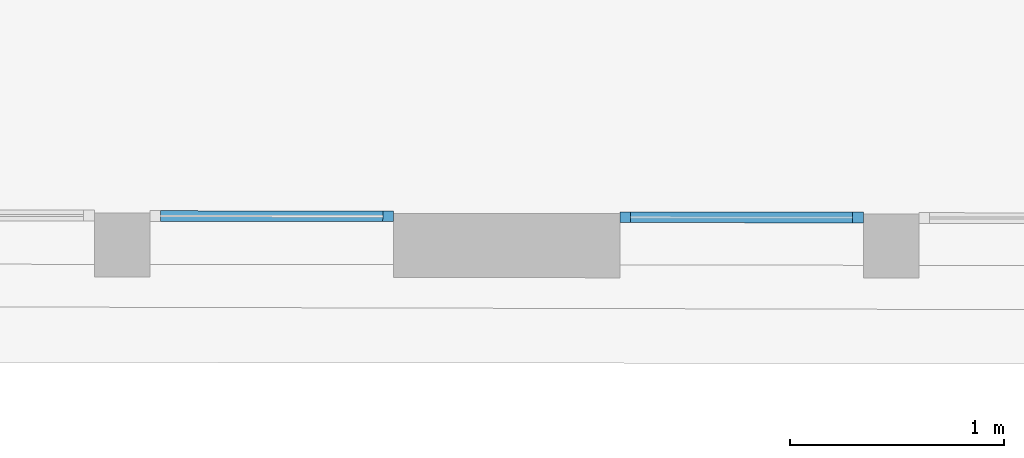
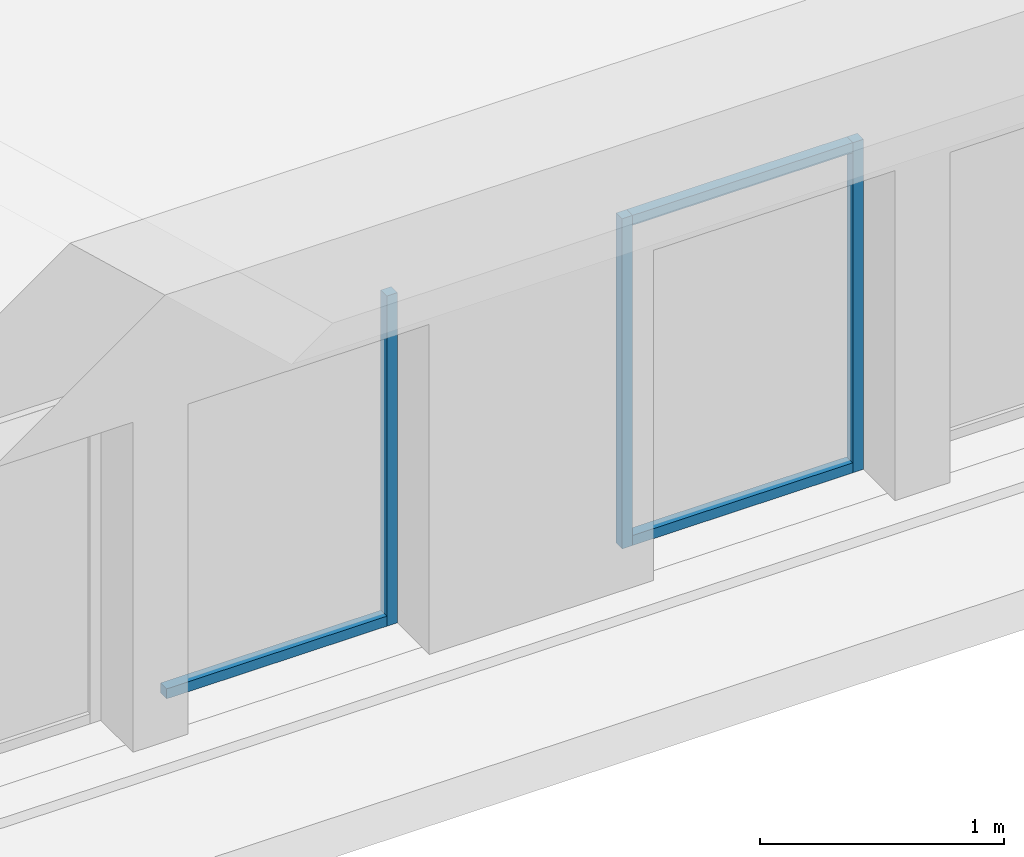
# One storey, part 2 of 26: 6 members, 2 elements without a shape of their own.
"""IFC2X3 building model written with IfcOpenShell, lengths in metres."""

import ifcopenshell
import ifcopenshell.guid

model = None  # the IFC model being written
_history = None  # IfcOwnerHistory: only IFC2X3 demands one
_inside = {}  # id of a spatial element -> (the spatial element, [elements in it])
_under = {}  # id of a project, library or spatial element -> (it, [spatial elements below it])
_declared = {}  # id of a project -> (the project, [libraries it declares])
_typed = {}  # id of a type object -> (the type object, [elements of that type])
_made_of = {}  # id of a material, layer set ... -> (it, [elements and type objects made of it])


def new_model(schema):
    """Start an empty IFC model of exactly this schema.

    Asked for "IFC4X3", IfcOpenShell would pick the latest addendum, in which some entities
    have other attributes; the version numbers below select the first issue.
    IFC2X3 requires an IfcOwnerHistory on every rooted entity: one is made here for all.
    """
    global model, _history
    if schema == "IFC4X3":
        model = ifcopenshell.file(schema_version=(4, 3, 0, 0))
    else:
        model = ifcopenshell.file(schema=schema)
    _inside.clear()
    _under.clear()
    _declared.clear()
    _typed.clear()
    _made_of.clear()
    _history = None
    if model.schema == "IFC2X3":
        org = make("IfcOrganization", Name="unknown")
        user = make(
            "IfcPersonAndOrganization",
            ThePerson=make("IfcPerson", FamilyName="unknown"),
            TheOrganization=org,
        )
        app = make(
            "IfcApplication",
            ApplicationDeveloper=org,
            Version="unknown",
            ApplicationFullName="unknown",
            ApplicationIdentifier="unknown",
        )
        _history = make(
            "IfcOwnerHistory",
            OwningUser=user,
            OwningApplication=app,
            ChangeAction="ADDED",
            CreationDate=0,
        )
    return model


def make(cls, **values):
    """One entity of the class cls with the attributes given. An attribute that is None is left unset."""
    return model.create_entity(
        cls, **{name: value for name, value in values.items() if value is not None}
    )


def entity(cls, *values):
    """Any entity or typed value of the class cls, its attributes in the order of the schema. None: left unset."""
    e = model.create_entity(cls)
    for i, value in enumerate(values):
        if value is not None:
            e[i] = value
    return e


def rooted(cls, **values):
    """An entity with a GlobalId (a new one), such as an element, a storey or a relation."""
    return make(cls, GlobalId=ifcopenshell.guid.new(), OwnerHistory=_history, **values)


def si_unit(unit_type, name, prefix=None):
    """IfcSIUnit, for example si_unit("LENGTHUNIT", "METRE", prefix="MILLI")."""
    return make("IfcSIUnit", UnitType=unit_type, Prefix=prefix, Name=name)


def converted_unit(unit_type, name, factor, base, dimensions=None, offset=None):
    """IfcConversionBasedUnit, such as the inch: factor (a typed value) times the base unit."""
    return make(
        "IfcConversionBasedUnit"
        if offset is None
        else "IfcConversionBasedUnitWithOffset",
        ConversionOffset=offset,
        Dimensions=None
        if dimensions is None
        else entity("IfcDimensionalExponents", *dimensions),
        UnitType=unit_type,
        Name=name,
        ConversionFactor=make(
            "IfcMeasureWithUnit", ValueComponent=factor, UnitComponent=base
        ),
    )


def derived_unit(unit_type, elements):
    """IfcDerivedUnit: a product of units, each with its exponent."""
    return make(
        "IfcDerivedUnit",
        Elements=[
            make("IfcDerivedUnitElement", Unit=unit, Exponent=power)
            for unit, power in elements
        ],
        UnitType=unit_type,
    )


def assignment(units):
    """IfcUnitAssignment: the units of a project."""
    return None if units is None else make("IfcUnitAssignment", Units=units)


def point(xyz):
    """IfcCartesianPoint."""
    return None if xyz is None else make("IfcCartesianPoint", Coordinates=xyz)


def direction(xyz):
    """IfcDirection."""
    return None if xyz is None else make("IfcDirection", DirectionRatios=xyz)


def frame(location, z_axis=None, x_axis=None):
    """IfcAxis2Placement3D, a coordinate frame: its origin and axes. An axis left out is left unset."""
    return make(
        "IfcAxis2Placement3D",
        Location=point(location),
        Axis=direction(z_axis),
        RefDirection=direction(x_axis),
    )


def frame_2d(location, x_axis=None):
    """IfcAxis2Placement2D, a coordinate frame in the plane: its origin and x axis."""
    return make(
        "IfcAxis2Placement2D", Location=point(location), RefDirection=direction(x_axis)
    )


def origin():
    """The frame at (0, 0, 0) with its axes left unset."""
    return frame((0.0, 0.0, 0.0))


def origin_2d_with_axis():
    """The frame at (0, 0) in the plane with the x axis (1, 0) written out."""
    return frame_2d((0.0, 0.0), x_axis=(1.0, 0.0))


def place(relative_to, where):
    """IfcLocalPlacement: puts the frame where relative to a parent placement (None: the world)."""
    return make(
        "IfcLocalPlacement", PlacementRelTo=relative_to, RelativePlacement=where
    )


def context(
    kind, dimensions, precision=None, world=None, true_north=None, identifier=None
):
    """IfcGeometricRepresentationContext, for example the 3D "Model" context."""
    return make(
        "IfcGeometricRepresentationContext",
        ContextIdentifier=identifier,
        ContextType=kind,
        CoordinateSpaceDimension=dimensions,
        Precision=precision,
        WorldCoordinateSystem=world,
        TrueNorth=true_north,
    )


def subcontext(parent, identifier, kind, view, scale=None):
    """IfcGeometricRepresentationSubContext, for example "Body" below "Model"."""
    return make(
        "IfcGeometricRepresentationSubContext",
        ContextIdentifier=identifier,
        ContextType=kind,
        ParentContext=parent,
        TargetScale=scale,
        TargetView=view,
    )


def project(units=None, contexts=None):
    """IfcProject with its units and contexts."""
    return rooted(
        "IfcProject",
        Name="project",
        RepresentationContexts=contexts,
        UnitsInContext=assignment(units),
    )


def spatial(cls, under=None, at=None, **own):
    """A site, building, storey or space (cls), placed at a placement, below another one or the project."""
    s = rooted(cls, ObjectPlacement=at, **own)
    if under is not None:
        _under.setdefault(under.id(), (under, []))[1].append(s)
    return s


def profile(cls, at=None, kind="AREA", **sizes):
    """A parametric profile (cls). Its sizes go by their IFC names, for example OverallWidth=200.0."""
    return make(cls, ProfileType=kind, Position=at, **sizes)


def rectangle(**sizes):
    """IfcRectangleProfileDef."""
    return profile("IfcRectangleProfileDef", **sizes)


def extrude(swept, where, along, depth):
    """IfcExtrudedAreaSolid: the profile swept, set in the frame where, extruded along a direction by depth."""
    return make(
        "IfcExtrudedAreaSolid",
        SweptArea=swept,
        Position=where,
        ExtrudedDirection=direction(along),
        Depth=depth,
    )


def shape(context_of_items, identifier, shape_type, items):
    """IfcShapeRepresentation: the items that make up one representation, for example the "Body"."""
    return make(
        "IfcShapeRepresentation",
        ContextOfItems=context_of_items,
        RepresentationIdentifier=identifier,
        RepresentationType=shape_type,
        Items=items,
    )


def source(mapping_origin, context_of_items, identifier, shape_type, items):
    """IfcRepresentationMap: a shape defined once, which mapped items show again and again."""
    return make(
        "IfcRepresentationMap",
        MappingOrigin=mapping_origin,
        MappedRepresentation=shape(context_of_items, identifier, shape_type, items),
    )


def transform(
    local_origin,
    x_axis=None,
    y_axis=None,
    z_axis=None,
    scale=None,
    scale2=None,
    scale3=None,
    uniform=True,
):
    """IfcCartesianTransformationOperator3D, or its non-uniform kind. x_axis, y_axis, z_axis: its Axis1, 2, 3."""
    if uniform:
        return make(
            "IfcCartesianTransformationOperator3D",
            Axis1=direction(x_axis),
            Axis2=direction(y_axis),
            LocalOrigin=point(local_origin),
            Scale=scale,
            Axis3=direction(z_axis),
        )
    return make(
        "IfcCartesianTransformationOperator3DnonUniform",
        Axis1=direction(x_axis),
        Axis2=direction(y_axis),
        LocalOrigin=point(local_origin),
        Scale=scale,
        Axis3=direction(z_axis),
        Scale2=scale2,
        Scale3=scale3,
    )


def mapped(mapping_source, mapping_target):
    """IfcMappedItem: shows the shape of a source again, moved by a transform."""
    return make(
        "IfcMappedItem", MappingSource=mapping_source, MappingTarget=mapping_target
    )


def material(Name=None, Category=None):
    """IfcMaterial."""
    return make("IfcMaterial", Name=Name, Category=Category)


def made_of(thing, what):
    """Note that an element or type object is made of a material, layer set ...; save() writes the relation."""
    if what is not None:
        _made_of.setdefault(what.id(), (what, []))[1].append(thing)
    return thing


def type_object(cls, material=None, **own):
    """A type object (cls), such as IfcWallType, which elements share."""
    return made_of(rooted(cls, **own), material)


def type_shapes(of_type, sources):
    """Give a type object the sources (RepresentationMaps) that its elements show as mapped items."""
    of_type.RepresentationMaps = sources


def element(
    cls,
    number,
    at=None,
    inside=None,
    cuts=None,
    type_object=None,
    material=None,
    context=None,
    identifier="Body",
    shape_type=None,
    held_by="IfcProductDefinitionShape",
    body=None,
    shapes=None,
    **own,
):
    """One element of the class cls, such as IfcWall. Its Tag is "e" and its number.

    at: its placement. inside: the storey or other place that contains it. cuts: it is an
    opening in that element (IfcRelVoidsElement). A single representation is given by context,
    identifier, shape_type and body (its items); several are given by shapes. held_by: the class
    of the entity that holds the representations. save() writes the other relations.
    """
    e = rooted(cls, Tag="e%d" % number, ObjectPlacement=at, **own)
    if body is not None:
        shapes = [shape(context, identifier, shape_type, body)]
    if shapes is not None:
        e.Representation = make(held_by, Representations=shapes)
    if inside is not None:
        _inside.setdefault(inside.id(), (inside, []))[1].append(e)
    if cuts is not None:
        rooted(
            "IfcRelVoidsElement", RelatingBuildingElement=cuts, RelatedOpeningElement=e
        )
    if type_object is not None:
        _typed.setdefault(type_object.id(), (type_object, []))[1].append(e)
    return made_of(e, material)


def aggregate(whole, parts):
    """IfcRelAggregates: a whole, such as a stair, and the parts it consists of."""
    return rooted("IfcRelAggregates", RelatingObject=whole, RelatedObjects=parts)


def save(model, path):
    """Write the relations noted so far, then the file.

    IfcRelAggregates (storeys below a building ...), IfcRelContainedInSpatialStructure (elements
    in a storey), IfcRelDefinesByType, IfcRelAssociatesMaterial and IfcRelDeclares: one each for
    every whole, place, type object, material and project.
    """
    for whole, parts in _under.values():
        aggregate(whole, parts)
    for where, things in _inside.values():
        rooted(
            "IfcRelContainedInSpatialStructure",
            RelatedElements=things,
            RelatingStructure=where,
        )
    for kind, things in _typed.values():
        rooted("IfcRelDefinesByType", RelatedObjects=things, RelatingType=kind)
    for what, things in _made_of.values():
        rooted("IfcRelAssociatesMaterial", RelatedObjects=things, RelatingMaterial=what)
    for by, libraries in _declared.values():
        rooted("IfcRelDeclares", RelatingContext=by, RelatedDefinitions=libraries)
    model.write(path)


model = new_model("IFC2X3")

# Units and contexts
model_context = context("Model", 3, precision=1e-05, world=origin(), true_north=direction((6.123233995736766e-17, 1.0)))
body_context = subcontext(model_context, "Body", "Model", "MODEL_VIEW")
ifc_project = project(units=[si_unit("LENGTHUNIT", "METRE"), si_unit("AREAUNIT", "SQUARE_METRE"), converted_unit("PLANEANGLEUNIT", "DEGREE", entity("IfcPlaneAngleMeasure", 0.017453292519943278), si_unit("PLANEANGLEUNIT", "RADIAN"), dimensions=[0, 0, 0, 0, 0, 0, 0]), derived_unit("THERMALTRANSMITTANCEUNIT", [(si_unit("MASSUNIT", "GRAM", prefix="KILO"), 1), (si_unit("THERMODYNAMICTEMPERATUREUNIT", "KELVIN"), -1), (si_unit("TIMEUNIT", "SECOND"), -3)])], contexts=[model_context])

# Site, building, storey
site_placement = place(None, frame((1253.6752467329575, 2072.143113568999, 91.49999999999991), z_axis=(0.0, 0.0, 1.0), x_axis=(0.7237211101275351, 0.6900925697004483, 0.0)))
site = spatial("IfcSite", under=ifc_project, at=site_placement, Name="Surface", CompositionType="ELEMENT")
building_placement = place(site_placement, origin())
building = spatial("IfcBuilding", under=site, at=building_placement, CompositionType="ELEMENT")
storey_placement = place(building_placement, frame((0.0, 0.0, 7.0)))
storey = spatial("IfcBuildingStorey", under=building, at=storey_placement, Name="2-R+2", CompositionType="ELEMENT", Elevation=6.999999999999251)

# Curtain wall, members
curtain_wall_type = type_object("IfcCurtainWallType", Name="Mur-rideau:Menuiserie Ext 1F+1OB VERTIC", PredefinedType="NOTDEFINED")
curtain_wall_1_placement = place(storey_placement, frame((0.0, 0.0, -7.0)))
curtain_wall_1 = element("IfcCurtainWall", 1, at=curtain_wall_1_placement, inside=storey, type_object=curtain_wall_type, Name="Mur-rideau:Menuiserie Ext 1F+1OB VERTIC", ObjectType="Mur-rideau:Menuiserie Ext 1F+1OB VERTIC")
ifc_material = material(Name="OMD_Aluminium Men Ext")
member_type_1 = type_object("IfcMemberType", Name="Meneau rectangulaire:50x50", PredefinedType="MULLION", material=ifc_material)
shared_shape_1 = source(origin(), body_context, "Body", "SweptSolid", [
    extrude(rectangle(XDim=0.05, YDim=0.049999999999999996, at=origin_2d_with_axis()), frame((-0.025, 0.0, -1.039999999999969), z_axis=(0.0, 0.0, 1.0), x_axis=(-1.0, 0.0, 0.0)), (0.0, 0.0, 1.0), 1.0399999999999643),
])
type_shapes(member_type_1, [shared_shape_1])
member_1_placement = place(curtain_wall_1_placement, frame((154.77449531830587, -5.822534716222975, 9.55), z_axis=(-0.7228702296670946, 0.6909838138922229, 0.0), x_axis=(0.0, 0.0, 1.0)))
member_1 = element("IfcMember", 2, at=member_1_placement, type_object=member_type_1, material=ifc_material, Name="Meneau rectangulaire:50x50", ObjectType="Meneau rectangulaire:50x50", context=body_context, shape_type="MappedRepresentation", body=[
    mapped(shared_shape_1, transform((0.0, 0.0, 0.0), scale=1.0)),
])
member_type_2 = type_object("IfcMemberType", Name="Meneau rectangulaire:50x50", PredefinedType="MULLION", material=ifc_material)
shared_shape_2 = source(origin(), body_context, "Body", "SweptSolid", [
    extrude(rectangle(XDim=0.05, YDim=0.05, at=origin_2d_with_axis()), frame((-0.025, 0.0, -1.0399999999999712), z_axis=(0.0, 0.0, 1.0), x_axis=(-1.0, 0.0, 0.0)), (0.0, 0.0, 1.0), 1.0399999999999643),
])
type_shapes(member_type_2, [shared_shape_2])
member_2_placement = place(curtain_wall_1_placement, frame((155.52628035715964, -6.541157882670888, 7.900000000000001), z_axis=(0.7228702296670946, -0.6909838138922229, 0.0), x_axis=(0.0, 0.0, -1.0)))
member_2 = element("IfcMember", 3, at=member_2_placement, type_object=member_type_2, material=ifc_material, Name="Meneau rectangulaire:50x50", ObjectType="Meneau rectangulaire:50x50", context=body_context, shape_type="MappedRepresentation", body=[
    mapped(shared_shape_2, transform((0.0, 0.0, 0.0), scale=1.0)),
])

# Curtain wall, member
curtain_wall_2_placement = place(storey_placement, frame((0.0, 0.0, -7.0)))
curtain_wall_2 = element("IfcCurtainWall", 4, at=curtain_wall_2_placement, inside=storey, type_object=curtain_wall_type, Name="Mur-rideau:Menuiserie Ext 1F+1OB VERTIC", ObjectType="Mur-rideau:Menuiserie Ext 1F+1OB VERTIC")
member_3_placement = place(curtain_wall_2_placement, frame((153.93805386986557, -5.018812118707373, 7.900000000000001), z_axis=(0.7228702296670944, -0.6909838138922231, 0.0), x_axis=(0.0, 0.0, -1.0)))
member_3 = element("IfcMember", 5, at=member_3_placement, type_object=member_type_2, material=ifc_material, Name="Meneau rectangulaire:50x50", ObjectType="Meneau rectangulaire:50x50", context=body_context, shape_type="MappedRepresentation", body=[
    mapped(shared_shape_2, transform((0.0, 0.0, 0.0), scale=1.0)),
])

# Member
member_type_3 = type_object("IfcMemberType", Name="Meneau rectangulaire:50x50", PredefinedType="MULLION", material=ifc_material)
shared_shape_3 = source(origin(), body_context, "Body", "SweptSolid", [
    extrude(rectangle(XDim=0.05, YDim=0.05, at=origin_2d_with_axis()), frame((-0.025, 0.0, -1.6499999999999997), z_axis=(0.0, 0.0, 1.0), x_axis=(-1.0, 0.0, 0.0)), (0.0, 0.0, 1.0), 1.6499999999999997),
])
type_shapes(member_type_3, [shared_shape_3])
member_4_placement = place(curtain_wall_1_placement, frame((154.73835180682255, -5.78798552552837, 7.900000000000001), z_axis=(0.0, 0.0, -1.0), x_axis=(-0.7228702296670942, 0.6909838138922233, 0.0)))
member_4 = element("IfcMember", 6, at=member_4_placement, type_object=member_type_3, material=ifc_material, Name="Meneau rectangulaire:50x50", ObjectType="Meneau rectangulaire:50x50", context=body_context, shape_type="MappedRepresentation", body=[
    mapped(shared_shape_3, transform((0.0, 0.0, 0.0), scale=1.0)),
])

member_type_4 = type_object("IfcMemberType", Name="Meneau rectangulaire:50x50", PredefinedType="MULLION", material=ifc_material)
shared_shape_4 = source(origin(), body_context, "Body", "SweptSolid", [
    extrude(rectangle(XDim=0.05, YDim=0.05000000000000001, at=origin_2d_with_axis()), frame((-0.025, 0.0, -1.6499999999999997), z_axis=(0.0, 0.0, 1.0), x_axis=(-1.0, 0.0, 0.0)), (0.0, 0.0, 1.0), 1.6499999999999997),
])
type_shapes(member_type_4, [shared_shape_4])
member_5_placement = place(curtain_wall_1_placement, frame((155.562423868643, -6.575707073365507, 9.55), z_axis=(0.0, 0.0, 1.0), x_axis=(0.7228702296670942, -0.6909838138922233, 0.0)))
member_5 = element("IfcMember", 7, at=member_5_placement, type_object=member_type_4, material=ifc_material, Name="Meneau rectangulaire:50x50", ObjectType="Meneau rectangulaire:50x50", context=body_context, shape_type="MappedRepresentation", body=[
    mapped(shared_shape_4, transform((0.0, 0.0, 0.0), scale=1.0)),
])

aggregate(curtain_wall_1, [member_1, member_2, member_4, member_5])

member_6_placement = place(curtain_wall_2_placement, frame((153.97419738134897, -5.053361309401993, 9.55), z_axis=(0.0, 0.0, 1.0), x_axis=(0.7228702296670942, -0.6909838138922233, 0.0)))
member_6 = element("IfcMember", 8, at=member_6_placement, type_object=member_type_4, material=ifc_material, Name="Meneau rectangulaire:50x50", ObjectType="Meneau rectangulaire:50x50", context=body_context, shape_type="MappedRepresentation", body=[
    mapped(shared_shape_4, transform((0.0, 0.0, 0.0), scale=1.0)),
])

aggregate(curtain_wall_2, [member_3, member_6])

save(model, "model.ifc")
